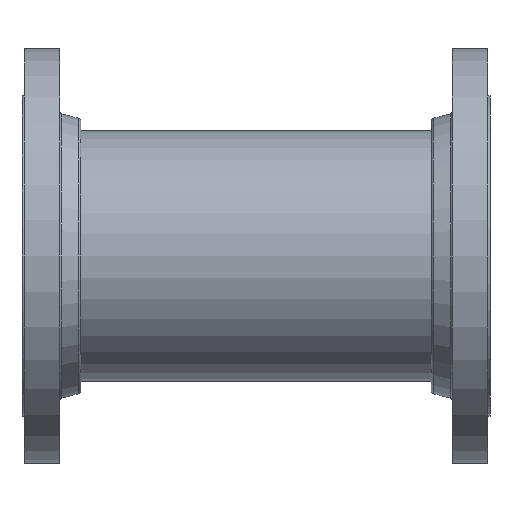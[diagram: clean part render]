
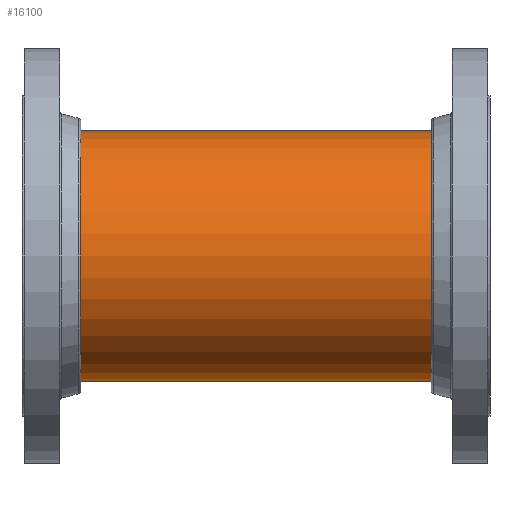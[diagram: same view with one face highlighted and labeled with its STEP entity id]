
A CAD part, front view. The second image highlights one B-rep face of the part: STEP entity #16100.
In plain terms, the highlighted cylindrical face has radius 84.14 mm (diameter 168.28 mm), a partial arc.
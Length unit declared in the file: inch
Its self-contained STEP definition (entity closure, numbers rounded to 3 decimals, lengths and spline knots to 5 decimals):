
#1453 = AXIS2_PLACEMENT_3D ( 'NONE', #4647, #10412, #29112 ) ;
#3396 = EDGE_LOOP ( 'NONE', ( #18113, #40450, #7475, #16700 ) ) ;
#3508 = CARTESIAN_POINT ( 'NONE',  ( 5.73622, -4.1, 3.3126 ) ) ;
#4300 = VERTEX_POINT ( 'NONE', #40541 ) ;
#4647 = CARTESIAN_POINT ( 'NONE',  ( -5.74016, -4.1, 0. ) ) ;
#4948 = AXIS2_PLACEMENT_3D ( 'NONE', #26780, #19766, #38910 ) ;
#5952 = VERTEX_POINT ( 'NONE', #10699 ) ;
#6882 = DIRECTION ( 'NONE',  ( 0., 0., -1. ) ) ;
#7475 = ORIENTED_EDGE ( 'NONE', *, *, #33460, .T. ) ;
#10412 = DIRECTION ( 'NONE',  ( 1., 0., 0. ) ) ;
#10699 = CARTESIAN_POINT ( 'NONE',  ( -5.74016, -4.1, -3.3126 ) ) ;
#11495 = LINE ( 'NONE', #30379, #31052 ) ;
#13090 = EDGE_CURVE ( 'NONE', #4300, #5952, #23087, .T. ) ;
#15879 = DIRECTION ( 'NONE',  ( 1., 0., 0. ) ) ;
#16100 = ADVANCED_FACE ( 'NONE', ( #25767 ), #34614, .T. ) ;
#16231 = EDGE_CURVE ( 'NONE', #29850, #35854, #33832, .T. ) ;
#16700 = ORIENTED_EDGE ( 'NONE', *, *, #16231, .F. ) ;
#17951 = LINE ( 'NONE', #39757, #34311 ) ;
#18113 = ORIENTED_EDGE ( 'NONE', *, *, #29291, .F. ) ;
#18942 = CARTESIAN_POINT ( 'NONE',  ( 5.73622, -4.1, 0. ) ) ;
#19766 = DIRECTION ( 'NONE',  ( 1., 0., 0. ) ) ;
#23087 = CIRCLE ( 'NONE', #1453, 3.3126 ) ;
#23327 = AXIS2_PLACEMENT_3D ( 'NONE', #18942, #15879, #6882 ) ;
#24014 = DIRECTION ( 'NONE',  ( 1., 0., 0. ) ) ;
#25767 = FACE_OUTER_BOUND ( 'NONE', #3396, .T. ) ;
#26780 = CARTESIAN_POINT ( 'NONE',  ( 5.73622, -4.1, 0. ) ) ;
#29112 = DIRECTION ( 'NONE',  ( 0., 0., -1. ) ) ;
#29291 = EDGE_CURVE ( 'NONE', #4300, #29850, #17951, .T. ) ;
#29850 = VERTEX_POINT ( 'NONE', #3508 ) ;
#30379 = CARTESIAN_POINT ( 'NONE',  ( 5.73622, -4.1, -3.3126 ) ) ;
#30701 = CARTESIAN_POINT ( 'NONE',  ( 5.73622, -4.1, -3.3126 ) ) ;
#31052 = VECTOR ( 'NONE', #24014, 39.37008 ) ;
#33460 = EDGE_CURVE ( 'NONE', #5952, #35854, #11495, .T. ) ;
#33832 = CIRCLE ( 'NONE', #4948, 3.3126 ) ;
#34311 = VECTOR ( 'NONE', #39161, 39.37008 ) ;
#34614 = CYLINDRICAL_SURFACE ( 'NONE', #23327, 3.3126 ) ;
#35854 = VERTEX_POINT ( 'NONE', #30701 ) ;
#38910 = DIRECTION ( 'NONE',  ( 0., 0., -1. ) ) ;
#39161 = DIRECTION ( 'NONE',  ( 1., 0., 0. ) ) ;
#39757 = CARTESIAN_POINT ( 'NONE',  ( 5.73622, -4.1, 3.3126 ) ) ;
#40450 = ORIENTED_EDGE ( 'NONE', *, *, #13090, .T. ) ;
#40541 = CARTESIAN_POINT ( 'NONE',  ( -5.74016, -4.1, 3.3126 ) ) ;
